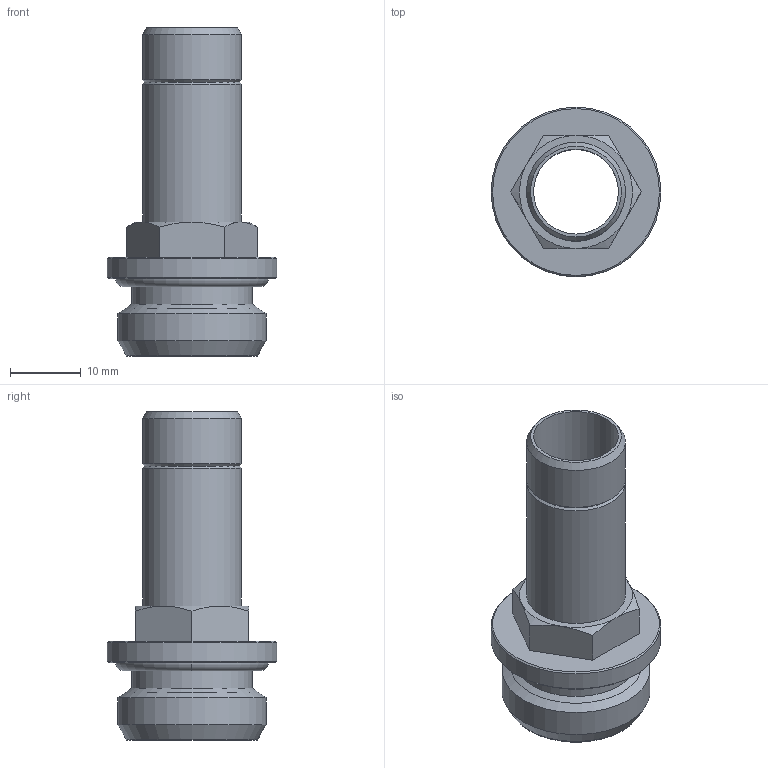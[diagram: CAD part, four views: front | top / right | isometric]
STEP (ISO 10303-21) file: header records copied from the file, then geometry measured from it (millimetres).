
FILE_DESCRIPTION(('Bauteilbeschreibung','HiCAD-Model','HiCAD-STEP-TRANSLATION','Bauteilbeschreibung'),'2;1');
FILE_NAME('B:/ABGLEICH/ZEICHNUNGEN/STEP FÜR INTERNET/STEP/IPSO 06/200617_IPSO_06_14_1-2.STP','2012-03-07T11:09:17+00:00',('Konstrukteur'),('Konstrukteur Firma GmbH'),' HiCAD neXt 2008, Step 3.1.1401.2J ','HiCAD neXt 2008','confidential');
FILE_SCHEMA(('AUTOMOTIVE_DESIGN { 1 2 10303 214 0 1 1 1 }'));
Length unit declared in the file: millimetre
Products named in the file (5): A00617_IPSO_06_14_1_2; A00617; A006170; G 1_2; OR 17_12X2_62
Assembly tree (4 placements, depth 3):
  A00617_IPSO_06_14_1_2
    A00617
    A006170
      G 1_2
    OR 17_12X2_62
Bounding box: 24 x 24 x 46.5 mm (x, y, z)
Volume: 4450.6 mm3; surface area: 6204.8 mm2
Topology: 3 solids, 3 shells, 45 faces, 96 edges, 57 vertices
Faces by surface type: cone 18, plane 12, cylinder 9, torus 6
Full cylindrical faces by diameter (mm): 12 x1, 13 x1, 14 x2, 17 x1, 18.631 x2, 20.955 x1, 24 x1
Entity records: 1444 total; most frequent: DIRECTION 202, CARTESIAN_POINT 193, ORIENTED_EDGE 132, AXIS2_PLACEMENT_3D 95, EDGE_LOOP 74, EDGE_CURVE 66, COLOUR_RGB 61, PRESENTATION_STYLE_ASSIGNMENT 61
